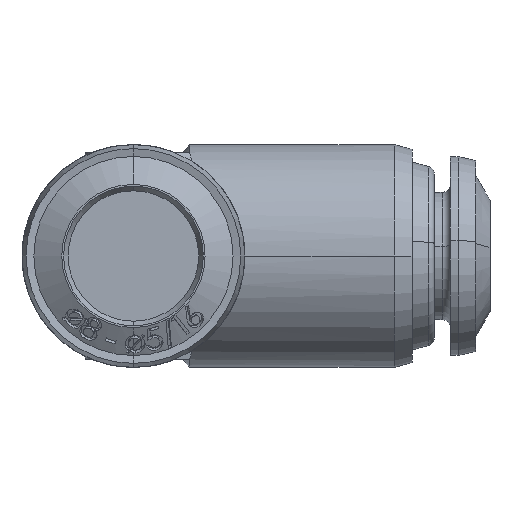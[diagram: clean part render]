
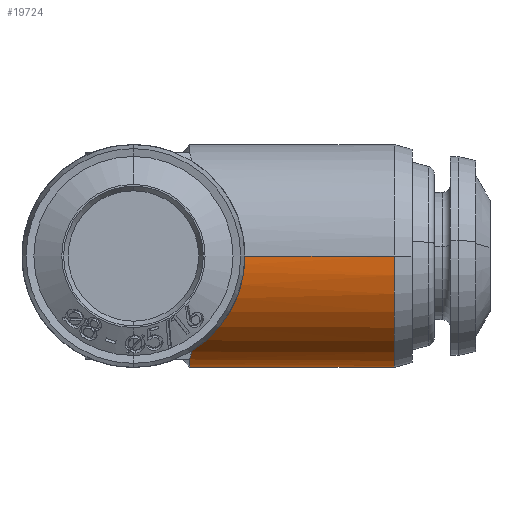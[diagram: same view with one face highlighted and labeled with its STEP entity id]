
A CAD part, left-side view. The second image highlights one B-rep face of the part: STEP entity #19724.
In plain terms, the highlighted cylindrical face has radius 7 mm (diameter 14 mm), a partial arc.
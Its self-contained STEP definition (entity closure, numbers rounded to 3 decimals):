
#2931 =( BOUNDED_CURVE ( )  B_SPLINE_CURVE ( 3, ( #13627, #13626, #13646, #13647 ),
 .UNSPECIFIED., .F., .F. ) 
 B_SPLINE_CURVE_WITH_KNOTS ( ( 4, 4 ),
 ( 3.142, 4.168 ),
 .UNSPECIFIED. ) 
 CURVE ( )  GEOMETRIC_REPRESENTATION_ITEM ( )  RATIONAL_B_SPLINE_CURVE ( ( 1., 0.914, 0.914, 1. ) ) 
 REPRESENTATION_ITEM ( '' )  );
#2937 =( BOUNDED_CURVE ( )  B_SPLINE_CURVE ( 3, ( #13685, #13686, #13691, #13692 ),
 .UNSPECIFIED., .F., .F. ) 
 B_SPLINE_CURVE_WITH_KNOTS ( ( 4, 4 ),
 ( 2.115, 3.142 ),
 .UNSPECIFIED. ) 
 CURVE ( )  GEOMETRIC_REPRESENTATION_ITEM ( )  RATIONAL_B_SPLINE_CURVE ( ( 1., 0.914, 0.914, 1. ) ) 
 REPRESENTATION_ITEM ( '' )  );
#2938 =( BOUNDED_CURVE ( )  B_SPLINE_CURVE ( 3, ( #13668, #13667, #13694, #13695 ),
 .UNSPECIFIED., .F., .F. ) 
 B_SPLINE_CURVE_WITH_KNOTS ( ( 4, 4 ),
 ( 0.727, 0.73 ),
 .UNSPECIFIED. ) 
 CURVE ( )  GEOMETRIC_REPRESENTATION_ITEM ( )  RATIONAL_B_SPLINE_CURVE ( ( 1., 1., 1., 1. ) ) 
 REPRESENTATION_ITEM ( '' )  );
#2939 =( BOUNDED_CURVE ( )  B_SPLINE_CURVE ( 3, ( #13690, #13693, #13698, #13699 ),
 .UNSPECIFIED., .F., .F. ) 
 B_SPLINE_CURVE_WITH_KNOTS ( ( 4, 4 ),
 ( 5.743, 5.903 ),
 .UNSPECIFIED. ) 
 CURVE ( )  GEOMETRIC_REPRESENTATION_ITEM ( )  RATIONAL_B_SPLINE_CURVE ( ( 1., 0.998, 0.998, 1. ) ) 
 REPRESENTATION_ITEM ( '' )  );
#2940 =( BOUNDED_CURVE ( )  B_SPLINE_CURVE ( 3, ( #13697, #13696, #21859, #21861 ),
 .UNSPECIFIED., .F., .F. ) 
 B_SPLINE_CURVE_WITH_KNOTS ( ( 4, 4 ),
 ( 0.38, 0.54 ),
 .UNSPECIFIED. ) 
 CURVE ( )  GEOMETRIC_REPRESENTATION_ITEM ( )  RATIONAL_B_SPLINE_CURVE ( ( 1., 0.998, 0.998, 1. ) ) 
 REPRESENTATION_ITEM ( '' )  );
#2941 =( BOUNDED_CURVE ( )  B_SPLINE_CURVE ( 3, ( #21854, #21857, #21869, #21871 ),
 .UNSPECIFIED., .F., .F. ) 
 B_SPLINE_CURVE_WITH_KNOTS ( ( 4, 4 ),
 ( 5.553, 5.557 ),
 .UNSPECIFIED. ) 
 CURVE ( )  GEOMETRIC_REPRESENTATION_ITEM ( )  RATIONAL_B_SPLINE_CURVE ( ( 1., 1., 1., 1. ) ) 
 REPRESENTATION_ITEM ( '' )  );
#4370 = EDGE_CURVE ( 'NONE', #18027, #5150, #11927, .T. ) ;
#4378 = EDGE_CURVE ( 'NONE', #18018, #18033, #11931, .T. ) ;
#4391 = EDGE_CURVE ( 'NONE', #5135, #5133, #11939, .T. ) ;
#4396 = EDGE_CURVE ( 'NONE', #5150, #5131, #2931, .T. ) ;
#4402 = EDGE_CURVE ( 'NONE', #18027, #18018, #11941, .T. ) ;
#4403 = EDGE_CURVE ( 'NONE', #5130, #18033, #2937, .T. ) ;
#4404 = EDGE_CURVE ( 'NONE', #5130, #5126, #2938, .T. ) ;
#4405 = EDGE_CURVE ( 'NONE', #5126, #5133, #2939, .T. ) ;
#4406 = EDGE_CURVE ( 'NONE', #5135, #5127, #2940, .T. ) ;
#4407 = EDGE_CURVE ( 'NONE', #5127, #5131, #2941, .T. ) ;
#5126 = VERTEX_POINT ( 'NONE', #22391 ) ;
#5127 = VERTEX_POINT ( 'NONE', #22393 ) ;
#5130 = VERTEX_POINT ( 'NONE', #22398 ) ;
#5131 = VERTEX_POINT ( 'NONE', #22400 ) ;
#5133 = VERTEX_POINT ( 'NONE', #22404 ) ;
#5135 = VERTEX_POINT ( 'NONE', #22408 ) ;
#5150 = VERTEX_POINT ( 'NONE', #22438 ) ;
#6251 = CARTESIAN_POINT ( 'NONE',  ( 0.119, 4.991, 0. ) ) ;
#6252 = DIRECTION ( 'NONE',  ( 0., 1., 0. ) ) ;
#6260 = DIRECTION ( 'NONE',  ( -1., 0., 0. ) ) ;
#9505 = CARTESIAN_POINT ( 'NONE',  ( -6.881, -11.389, 0. ) ) ;
#9507 = CARTESIAN_POINT ( 'NONE',  ( 7.119, -11.389, 0. ) ) ;
#9564 = CARTESIAN_POINT ( 'NONE',  ( -6.881, -2.009, 0. ) ) ;
#9870 = AXIS2_PLACEMENT_3D ( 'NONE', #6251, #6252, #6260 ) ;
#11359 = FACE_OUTER_BOUND ( 'NONE', #11772, .T. ) ;
#11367 = CYLINDRICAL_SURFACE ( 'NONE', #9870, 7. ) ;
#11564 = AXIS2_PLACEMENT_3D ( 'NONE', #13615, #13616, #13617 ) ;
#11566 = AXIS2_PLACEMENT_3D ( 'NONE', #13687, #13688, #13689 ) ;
#11772 = EDGE_LOOP ( 'NONE', ( #12502, #12503, #12504, #12505, #12506, #12507, #12508, #12509, #12510, #12511 ) ) ;
#11927 = LINE ( 'NONE', #13525, #11930 ) ;
#11930 = VECTOR ( 'NONE', #13531, 1000. ) ;
#11931 = LINE ( 'NONE', #13556, #11932 ) ;
#11932 = VECTOR ( 'NONE', #13561, 1000. ) ;
#11939 = CIRCLE ( 'NONE', #11564, 7. ) ;
#11941 = CIRCLE ( 'NONE', #11566, 7. ) ;
#12502 = ORIENTED_EDGE ( 'NONE', *, *, #4370, .F. ) ;
#12503 = ORIENTED_EDGE ( 'NONE', *, *, #4402, .T. ) ;
#12504 = ORIENTED_EDGE ( 'NONE', *, *, #4378, .T. ) ;
#12505 = ORIENTED_EDGE ( 'NONE', *, *, #4403, .F. ) ;
#12506 = ORIENTED_EDGE ( 'NONE', *, *, #4404, .T. ) ;
#12507 = ORIENTED_EDGE ( 'NONE', *, *, #4405, .T. ) ;
#12508 = ORIENTED_EDGE ( 'NONE', *, *, #4391, .F. ) ;
#12509 = ORIENTED_EDGE ( 'NONE', *, *, #4406, .T. ) ;
#12510 = ORIENTED_EDGE ( 'NONE', *, *, #4407, .T. ) ;
#12511 = ORIENTED_EDGE ( 'NONE', *, *, #4396, .F. ) ;
#13525 = CARTESIAN_POINT ( 'NONE',  ( 7.119, 4.991, 0. ) ) ;
#13531 = DIRECTION ( 'NONE',  ( 0., 1., 0. ) ) ;
#13556 = CARTESIAN_POINT ( 'NONE',  ( -6.881, 4.991, 0. ) ) ;
#13561 = DIRECTION ( 'NONE',  ( 0., 1., 0. ) ) ;
#13615 = CARTESIAN_POINT ( 'NONE',  ( 0.119, 1.467, 0. ) ) ;
#13616 = DIRECTION ( 'NONE',  ( 0., 1., 0. ) ) ;
#13617 = DIRECTION ( 'NONE',  ( -1., 0., 0. ) ) ;
#13626 = CARTESIAN_POINT ( 'NONE',  ( 7.119, -2.009, -2.507 ) ) ;
#13627 = CARTESIAN_POINT ( 'NONE',  ( 7.119, -2.009, 0. ) ) ;
#13646 = CARTESIAN_POINT ( 'NONE',  ( 5.888, -0.778, -4.691 ) ) ;
#13647 = CARTESIAN_POINT ( 'NONE',  ( 3.744, 1.367, -5.989 ) ) ;
#13667 = CARTESIAN_POINT ( 'NONE',  ( -3.497, 1.356, -5.993 ) ) ;
#13668 = CARTESIAN_POINT ( 'NONE',  ( -3.505, 1.367, -5.989 ) ) ;
#13685 = CARTESIAN_POINT ( 'NONE',  ( -3.505, 1.367, -5.989 ) ) ;
#13686 = CARTESIAN_POINT ( 'NONE',  ( -5.65, -0.778, -4.691 ) ) ;
#13687 = CARTESIAN_POINT ( 'NONE',  ( 0.119, -11.389, 0. ) ) ;
#13688 = DIRECTION ( 'NONE',  ( 0., 1., 0. ) ) ;
#13689 = DIRECTION ( 'NONE',  ( -1., 0., 0. ) ) ;
#13690 = CARTESIAN_POINT ( 'NONE',  ( -3.481, 1.334, -6.003 ) ) ;
#13691 = CARTESIAN_POINT ( 'NONE',  ( -6.881, -2.009, -2.507 ) ) ;
#13692 = CARTESIAN_POINT ( 'NONE',  ( -6.881, -2.009, 0. ) ) ;
#13693 = CARTESIAN_POINT ( 'NONE',  ( -3.161, 1.385, -6.195 ) ) ;
#13694 = CARTESIAN_POINT ( 'NONE',  ( -3.489, 1.345, -5.998 ) ) ;
#13695 = CARTESIAN_POINT ( 'NONE',  ( -3.481, 1.334, -6.003 ) ) ;
#13696 = CARTESIAN_POINT ( 'NONE',  ( 3.065, 1.43, -6.361 ) ) ;
#13697 = CARTESIAN_POINT ( 'NONE',  ( 2.718, 1.467, -6.5 ) ) ;
#13698 = CARTESIAN_POINT ( 'NONE',  ( -2.826, 1.43, -6.361 ) ) ;
#13699 = CARTESIAN_POINT ( 'NONE',  ( -2.479, 1.467, -6.5 ) ) ;
#18018 = VERTEX_POINT ( 'NONE', #9505 ) ;
#18027 = VERTEX_POINT ( 'NONE', #9507 ) ;
#18033 = VERTEX_POINT ( 'NONE', #9564 ) ;
#19724 = ADVANCED_FACE ( 'NONE', ( #11359 ), #11367, .T. ) ;
#21854 = CARTESIAN_POINT ( 'NONE',  ( 3.72, 1.334, -6.003 ) ) ;
#21857 = CARTESIAN_POINT ( 'NONE',  ( 3.728, 1.345, -5.998 ) ) ;
#21859 = CARTESIAN_POINT ( 'NONE',  ( 3.4, 1.385, -6.195 ) ) ;
#21861 = CARTESIAN_POINT ( 'NONE',  ( 3.72, 1.334, -6.003 ) ) ;
#21869 = CARTESIAN_POINT ( 'NONE',  ( 3.736, 1.356, -5.993 ) ) ;
#21871 = CARTESIAN_POINT ( 'NONE',  ( 3.744, 1.367, -5.989 ) ) ;
#22391 = CARTESIAN_POINT ( 'NONE',  ( -3.481, 1.334, -6.003 ) ) ;
#22393 = CARTESIAN_POINT ( 'NONE',  ( 3.72, 1.334, -6.003 ) ) ;
#22398 = CARTESIAN_POINT ( 'NONE',  ( -3.505, 1.367, -5.989 ) ) ;
#22400 = CARTESIAN_POINT ( 'NONE',  ( 3.744, 1.367, -5.989 ) ) ;
#22404 = CARTESIAN_POINT ( 'NONE',  ( -2.479, 1.467, -6.5 ) ) ;
#22408 = CARTESIAN_POINT ( 'NONE',  ( 2.718, 1.467, -6.5 ) ) ;
#22438 = CARTESIAN_POINT ( 'NONE',  ( 7.119, -2.009, 0. ) ) ;
